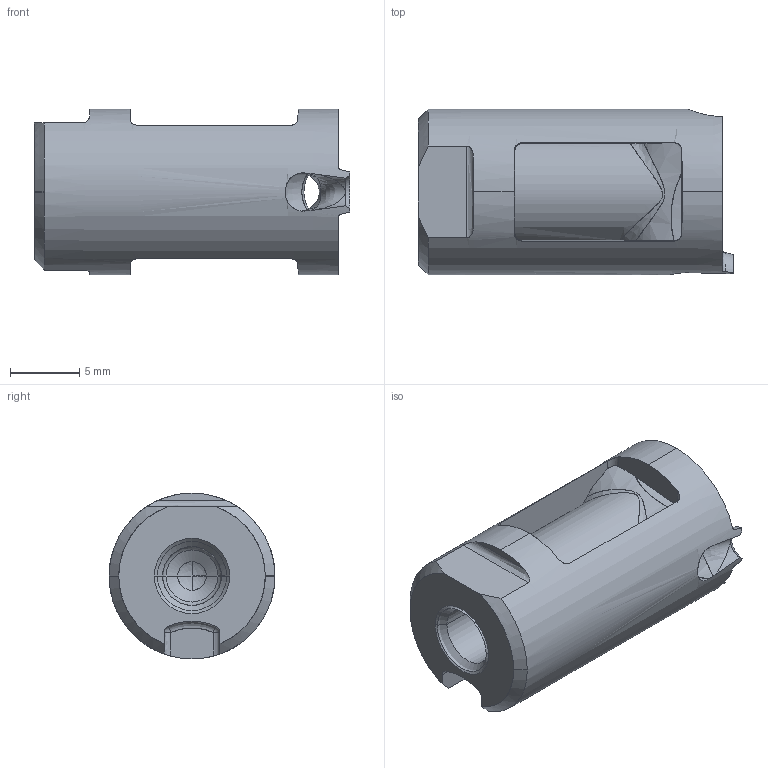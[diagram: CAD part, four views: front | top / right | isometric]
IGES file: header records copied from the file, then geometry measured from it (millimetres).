
Start section: START RECORD GO HERE.
Global section: file name: tgr12-20-s1.igs; native system: DASSAULT SYSTEMES CATIA V5 R20 - www.3ds.com; preprocessor: CATIA Version 5 Release 20 ; author: Utente; organization: NB04-ASUS; date: 20200417.224945; units: millimetre
Bounding box: 22.8 x 12 x 12 mm (x, y, z)
Surface area: 1694.4 mm2 (no closed solid volume)
Topology: 0 solids, 0 shells, 84 faces, 522 edges, 516 vertices
Faces by surface type: revolution 52, plane 18, bspline 14
